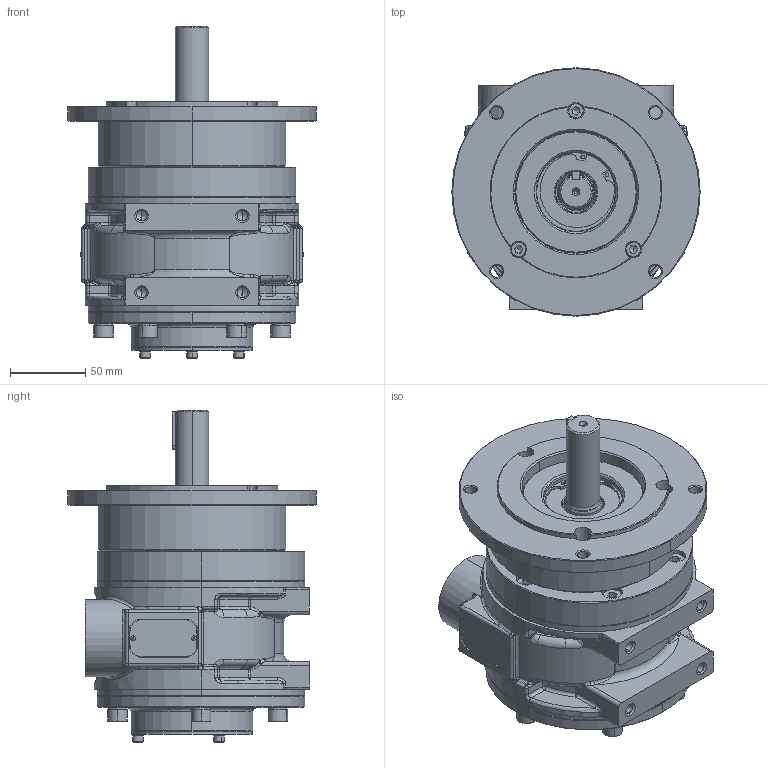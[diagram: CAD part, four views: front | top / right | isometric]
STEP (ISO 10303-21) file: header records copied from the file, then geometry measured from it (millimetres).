
FILE_DESCRIPTION (( 'STEP AP214' ), '1' );
FILE_NAME ('8VMN-Nema (Alu. End Plates)_23-04-26.STEP', '2026-04-24T08:40:13', ( '' ), ( '' ), 'SwSTEP 2.0', 'SolidWorks 2017', '' );
FILE_SCHEMA (( 'AUTOMOTIVE_DESIGN' ));
Length unit declared in the file: millimetre
Products named in the file (2): 8VMN-Nema (Alu. End Plates)_23-04-26
Bounding box: 165.2 x 165.2 x 220.85 mm (x, y, z)
Volume: 1038924.7 mm3; surface area: 304715.1 mm2
Topology: 43 solids, 43 shells, 1837 faces, 4191 edges, 2373 vertices
Faces by surface type: cylinder 580, cone 469, plane 443, torus 161, bspline 152, sphere 32
Entity records: 399615 total; most frequent: CARTESIAN_POINT 200371, ORIENTED_EDGE 30700, DIRECTION 22143, EDGE_CURVE 15350, VERTEX_POINT 9761, EDGE_LOOP 8885, AXIS2_PLACEMENT_3D 8251, B_SPLINE_CURVE_WITH_KNOTS 6958
